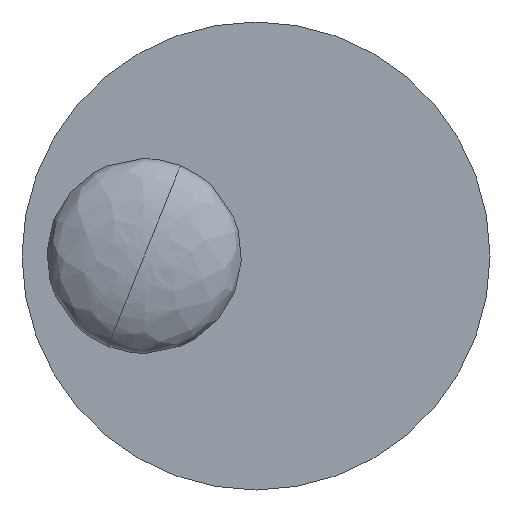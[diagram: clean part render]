
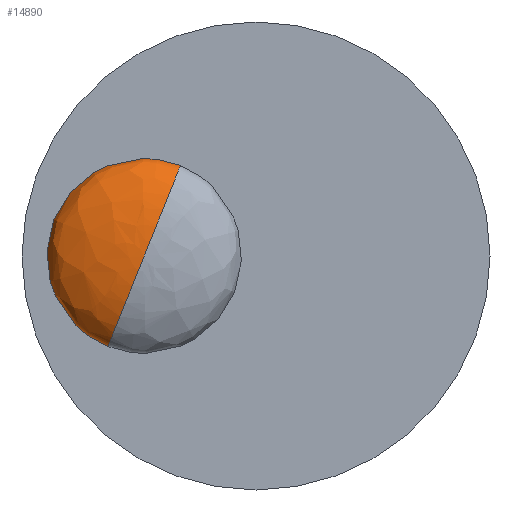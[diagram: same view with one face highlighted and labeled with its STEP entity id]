
A CAD part, front view. The second image highlights one B-rep face of the part: STEP entity #14890.
In plain terms, the highlighted free-form (B-spline) face has degree [3, 3] with [4, 4] control points.
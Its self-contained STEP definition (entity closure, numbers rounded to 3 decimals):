
#294 =( BOUNDED_CURVE ( )  B_SPLINE_CURVE ( 3, ( #4259, #351, #5675, #11106 ),
 .UNSPECIFIED., .F., .F. ) 
 B_SPLINE_CURVE_WITH_KNOTS ( ( 4, 4 ),
 ( 5.645, 7.854 ),
 .UNSPECIFIED. ) 
 CURVE ( )  GEOMETRIC_REPRESENTATION_ITEM ( )  RATIONAL_B_SPLINE_CURVE ( ( 1., 0.633, 0.633, 1. ) ) 
 REPRESENTATION_ITEM ( '' )  );
#351 = CARTESIAN_POINT ( 'NONE',  ( -102.247, -24.385, 0. ) ) ;
#1659 = CARTESIAN_POINT ( 'NONE',  ( 0., -50., 0. ) ) ;
#2115 =( BOUNDED_SURFACE ( )  B_SPLINE_SURFACE ( 3, 3, ( 
 ( #4831, #8993, #15835, #10333 ),
 ( #15751, #14409, #10070, #5978 ),
 ( #12712, #7564, #7299, #3670 ),
 ( #11494, #2260, #13078, #6242 ) ),
 .UNSPECIFIED., .F., .F., .F. ) 
 B_SPLINE_SURFACE_WITH_KNOTS ( ( 4, 4 ),
 ( 4, 4 ),
 ( 0., 1. ),
 ( 0., 1. ),
 .UNSPECIFIED. ) 
 GEOMETRIC_REPRESENTATION_ITEM ( )  RATIONAL_B_SPLINE_SURFACE ( (
 ( 1., 0.333, 0.333, 1.),
 ( 0.633, 0.211, 0.211, 0.633),
 ( 0.633, 0.211, 0.211, 0.633),
 ( 1., 0.333, 0.333, 1.) ) ) 
 REPRESENTATION_ITEM ( '' )  SURFACE ( )  );
#2260 = CARTESIAN_POINT ( 'NONE',  ( 0., -50., 0. ) ) ;
#3033 = EDGE_CURVE ( 'NONE', #10064, #9107, #294, .T. ) ;
#3463 = DIRECTION ( 'NONE',  ( 0., 1., 0. ) ) ;
#3670 = CARTESIAN_POINT ( 'NONE',  ( -70.525, -50., 0. ) ) ;
#4259 = CARTESIAN_POINT ( 'NONE',  ( -60.259, -1.342, 0. ) ) ;
#4548 = CIRCLE ( 'NONE', #14477, 60.259 ) ;
#4670 = CARTESIAN_POINT ( 'NONE',  ( 60.259, -1.342, 0. ) ) ;
#4831 = CARTESIAN_POINT ( 'NONE',  ( 60.259, -1.342, 0. ) ) ;
#5647 = CARTESIAN_POINT ( 'NONE',  ( 102.247, -24.385, 0. ) ) ;
#5675 = CARTESIAN_POINT ( 'NONE',  ( -70.525, -50., 0. ) ) ;
#5978 = CARTESIAN_POINT ( 'NONE',  ( -102.247, -24.385, 0. ) ) ;
#5979 = ORIENTED_EDGE ( 'NONE', *, *, #14584, .F. ) ;
#6062 = FACE_OUTER_BOUND ( 'NONE', #13256, .T. ) ;
#6112 = CARTESIAN_POINT ( 'NONE',  ( 0., -1.342, 0. ) ) ;
#6242 = CARTESIAN_POINT ( 'NONE',  ( 0., -50., 0. ) ) ;
#7299 = CARTESIAN_POINT ( 'NONE',  ( -70.525, -50., -141.05 ) ) ;
#7564 = CARTESIAN_POINT ( 'NONE',  ( 70.525, -50., -141.05 ) ) ;
#8178 = VERTEX_POINT ( 'NONE', #9990 ) ;
#8993 = CARTESIAN_POINT ( 'NONE',  ( 60.259, -1.342, -120.519 ) ) ;
#9099 = ORIENTED_EDGE ( 'NONE', *, *, #12217, .T. ) ;
#9107 = VERTEX_POINT ( 'NONE', #11441 ) ;
#9990 = CARTESIAN_POINT ( 'NONE',  ( 60.259, -1.342, 0. ) ) ;
#10064 = VERTEX_POINT ( 'NONE', #13390 ) ;
#10070 = CARTESIAN_POINT ( 'NONE',  ( -102.247, -24.385, -204.494 ) ) ;
#10333 = CARTESIAN_POINT ( 'NONE',  ( -60.259, -1.342, 0. ) ) ;
#11106 = CARTESIAN_POINT ( 'NONE',  ( 0., -50., 0. ) ) ;
#11163 = CARTESIAN_POINT ( 'NONE',  ( 70.525, -50., 0. ) ) ;
#11441 = CARTESIAN_POINT ( 'NONE',  ( 0., -50., 0. ) ) ;
#11494 = CARTESIAN_POINT ( 'NONE',  ( 0., -50., 0. ) ) ;
#11865 = ORIENTED_EDGE ( 'NONE', *, *, #3033, .F. ) ;
#12217 = EDGE_CURVE ( 'NONE', #8178, #9107, #14234, .T. ) ;
#12712 = CARTESIAN_POINT ( 'NONE',  ( 70.525, -50., 0. ) ) ;
#13078 = CARTESIAN_POINT ( 'NONE',  ( 0., -50., 0. ) ) ;
#13256 = EDGE_LOOP ( 'NONE', ( #5979, #9099, #11865 ) ) ;
#13390 = CARTESIAN_POINT ( 'NONE',  ( -60.259, -1.342, 0. ) ) ;
#14095 = DIRECTION ( 'NONE',  ( -1., 0., 0. ) ) ;
#14234 =( BOUNDED_CURVE ( )  B_SPLINE_CURVE ( 3, ( #4670, #5647, #11163, #1659 ),
 .UNSPECIFIED., .F., .F. ) 
 B_SPLINE_CURVE_WITH_KNOTS ( ( 4, 4 ),
 ( 5.645, 7.854 ),
 .UNSPECIFIED. ) 
 CURVE ( )  GEOMETRIC_REPRESENTATION_ITEM ( )  RATIONAL_B_SPLINE_CURVE ( ( 1., 0.633, 0.633, 1. ) ) 
 REPRESENTATION_ITEM ( '' )  );
#14409 = CARTESIAN_POINT ( 'NONE',  ( 102.247, -24.385, -204.494 ) ) ;
#14477 = AXIS2_PLACEMENT_3D ( 'NONE', #6112, #3463, #14095 ) ;
#14584 = EDGE_CURVE ( 'NONE', #8178, #10064, #4548, .T. ) ;
#14890 = ADVANCED_FACE ( 'NONE', ( #6062 ), #2115, .T. ) ;
#15751 = CARTESIAN_POINT ( 'NONE',  ( 102.247, -24.385, 0. ) ) ;
#15835 = CARTESIAN_POINT ( 'NONE',  ( -60.259, -1.342, -120.519 ) ) ;
